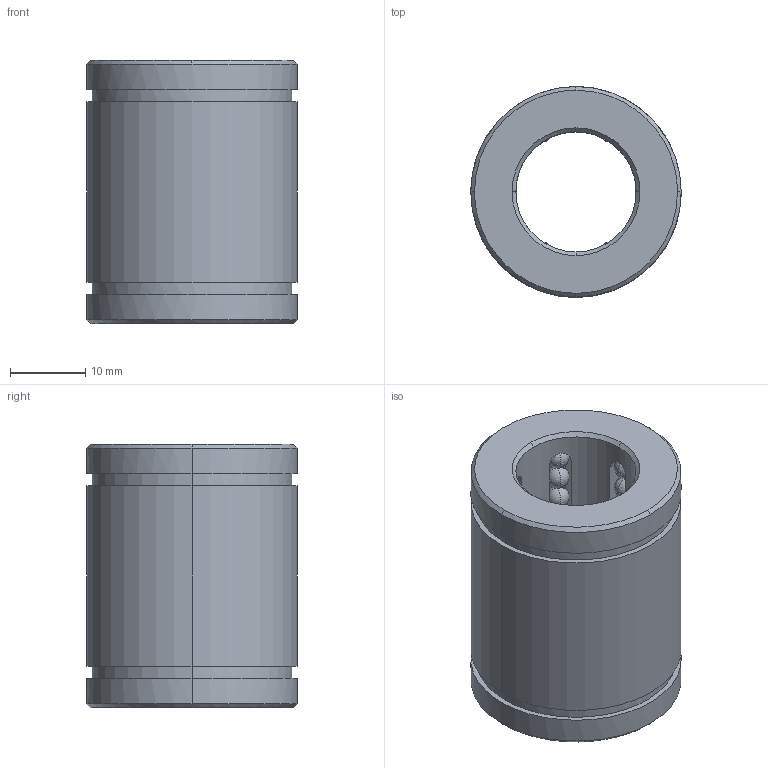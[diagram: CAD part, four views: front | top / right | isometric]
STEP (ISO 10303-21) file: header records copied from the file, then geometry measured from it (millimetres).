
FILE_DESCRIPTION(('CATIA V5 STEP Exchange'),'2;1');
FILE_NAME('C:\Users\Raffaele\Desktop\3D BOLEX\3D FILES CF BOLEX\3-BUSH REF 803\B8031635.stp','2019-06-19T14:10:27+00:00',('none'),('none'),'CATIA Version 5 Release 20 GA (IN-10)','CATIA V5 STEP AP203','none');
FILE_SCHEMA(('CONFIG_CONTROL_DESIGN'));
Length unit declared in the file: millimetre
Products named in the file (1): B8031635
Bounding box: 28 x 28 x 35 mm (x, y, z)
Volume: 13572.7 mm3; surface area: 8435 mm2
Topology: 55 solids, 55 shells, 280 faces, 802 edges, 208 vertices
Faces by surface type: sphere 216, cylinder 24, plane 24, cone 16
Entity records: 5823 total; most frequent: CARTESIAN_POINT 1332, DIRECTION 893, ORIENTED_EDGE 740, AXIS2_PLACEMENT_3D 536, EDGE_CURVE 370, EDGE_LOOP 290, ADVANCED_FACE 280, FACE_OUTER_BOUND 280
